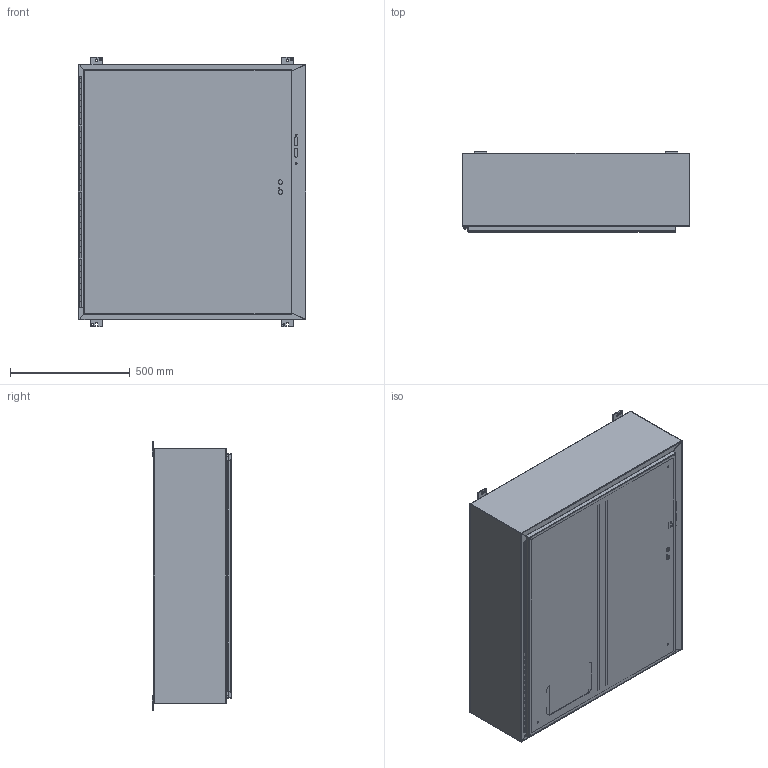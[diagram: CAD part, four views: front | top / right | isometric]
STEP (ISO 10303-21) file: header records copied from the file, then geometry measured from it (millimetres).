
FILE_DESCRIPTION( ( 'Unknown' ), '1' );
FILE_NAME( 'S:/STOCK/3-DISCONNECT/1447S/1447SJ12.stp', 'Unknown', ( 'Unknown' ), ( 'Unknown' ), 'PSStep 15.0.49', 'Unknown', ' ' );
FILE_SCHEMA( ( 'AUTOMOTIVE_DESIGN { 1 0 10303 214 1 1 1 1 }' ) );
Length unit declared in the file: millimetre
Products named in the file (22): COM56261; STD26057; STD21874; STD21878; COM70235-38C; COM55702-31; Assem1; COM49777; STD26094; FET07710; COM70219_1447J; COM40683; COM49793-1; COM49793-2; COM55702-99; COM55702-9; PKT99; HNG10610-38B; HNG10620-38P; COM54932; NTS17050
Assembly tree (36 placements, depth 3):
  Assem1
    COM49777
    STD21878
    STD26094  x8
    FET07710  x4
    COM70219_1447J
    COM40683
    COM49793-1
    COM49793-2
    COM55702-99  x2
    COM55702-9
    PKT99
    HNG10610-38B
    HNG10620-38P
    COM54932
    NTS17050  x2
    COM56261
      STD26057  x2
      STD21874  x2
      STD21878
      COM70235-38C
      COM55702-31
      COM56261
Bounding box: 949.33 x 331.78 x 1123.95 mm (x, y, z)
Volume: 9370474.3 mm3; surface area: 9541322 mm2
Topology: 35 solids, 35 shells, 1093 faces, 2803 edges, 1812 vertices
Faces by surface type: plane 675, cylinder 334, bspline 36, torus 34, cone 12, sphere 2
Full cylindrical faces by diameter (mm): 3.967 x2, 4.763 x1, 4.775 x2, 5.537 x1, 6.35 x4, 7.137 x2, 7.938 x8, 8.382 x8, 8.433 x4, 9.525 x8, 11.113 x4, 12.7 x8, 16.51 x10, 17.856 x2, 88.9 x1
Entity records: 27683 total; most frequent: CARTESIAN_POINT 5513, ORIENTED_EDGE 4170, DIRECTION 4138, EDGE_CURVE 2085, LINE 1496, VECTOR 1496, VERTEX_POINT 1365, AXIS2_PLACEMENT_3D 1321
